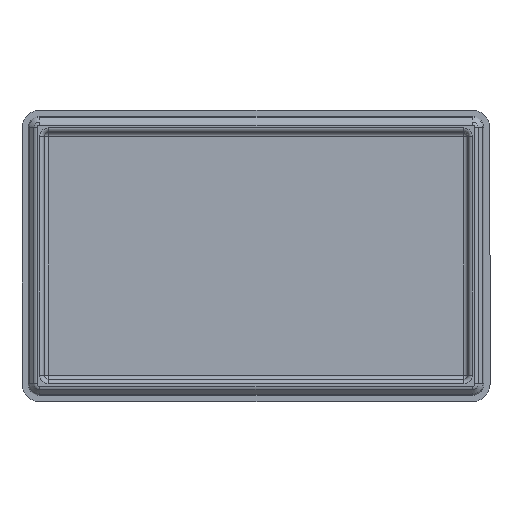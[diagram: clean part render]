
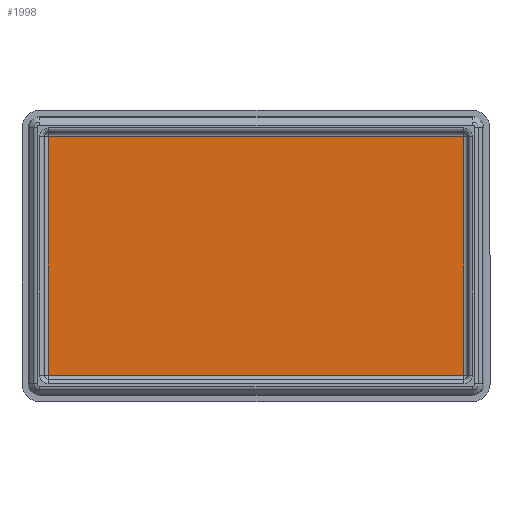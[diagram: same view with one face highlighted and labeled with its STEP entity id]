
A CAD part, top view. The second image highlights one B-rep face of the part: STEP entity #1998.
In plain terms, the highlighted planar face has unit normal (0, 0, 1).
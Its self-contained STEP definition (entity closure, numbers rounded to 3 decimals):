
#114 = ORIENTED_EDGE ( 'NONE', *, *, #293, .T. ) ;
#140 = ORIENTED_EDGE ( 'NONE', *, *, #1434, .T. ) ;
#154 = DIRECTION ( 'NONE',  ( -1., 0., 0. ) ) ;
#293 = EDGE_CURVE ( 'NONE', #1043, #2231, #1086, .T. ) ;
#545 = DIRECTION ( 'NONE',  ( 0., 0., 1. ) ) ;
#620 = VECTOR ( 'NONE', #842, 1000. ) ;
#712 = FACE_OUTER_BOUND ( 'NONE', #1256, .T. ) ;
#722 = ORIENTED_EDGE ( 'NONE', *, *, #1013, .T. ) ;
#842 = DIRECTION ( 'NONE',  ( 0., 1., 0. ) ) ;
#862 = VERTEX_POINT ( 'NONE', #1344 ) ;
#934 = VERTEX_POINT ( 'NONE', #2078 ) ;
#1013 = EDGE_CURVE ( 'NONE', #934, #862, #2259, .T. ) ;
#1017 = LINE ( 'NONE', #2255, #1780 ) ;
#1043 = VERTEX_POINT ( 'NONE', #1904 ) ;
#1063 = VECTOR ( 'NONE', #154, 1000. ) ;
#1083 = DIRECTION ( 'NONE',  ( 1., 0., 0. ) ) ;
#1086 = LINE ( 'NONE', #1763, #2118 ) ;
#1256 = EDGE_LOOP ( 'NONE', ( #140, #114, #1577, #722 ) ) ;
#1344 = CARTESIAN_POINT ( 'NONE',  ( -23.438, -31.177, 83.295 ) ) ;
#1368 = CARTESIAN_POINT ( 'NONE',  ( 23.562, -58.177, 83.295 ) ) ;
#1373 = EDGE_CURVE ( 'NONE', #2231, #934, #2089, .T. ) ;
#1407 = PLANE ( 'NONE',  #1965 ) ;
#1434 = EDGE_CURVE ( 'NONE', #862, #1043, #1017, .T. ) ;
#1577 = ORIENTED_EDGE ( 'NONE', *, *, #1373, .T. ) ;
#1763 = CARTESIAN_POINT ( 'NONE',  ( 0., -58.177, 83.295 ) ) ;
#1780 = VECTOR ( 'NONE', #1901, 1000. ) ;
#1888 = CARTESIAN_POINT ( 'NONE',  ( 23.562, 0., 83.295 ) ) ;
#1901 = DIRECTION ( 'NONE',  ( 0., -1., 0. ) ) ;
#1904 = CARTESIAN_POINT ( 'NONE',  ( -23.438, -58.177, 83.295 ) ) ;
#1940 = CARTESIAN_POINT ( 'NONE',  ( 0., -31.177, 83.295 ) ) ;
#1965 = AXIS2_PLACEMENT_3D ( 'NONE', #2105, #545, #1083 ) ;
#1998 = ADVANCED_FACE ( 'NONE', ( #712 ), #1407, .T. ) ;
#2078 = CARTESIAN_POINT ( 'NONE',  ( 23.562, -31.177, 83.295 ) ) ;
#2089 = LINE ( 'NONE', #1888, #620 ) ;
#2105 = CARTESIAN_POINT ( 'NONE',  ( 0., 0., 83.295 ) ) ;
#2118 = VECTOR ( 'NONE', #2122, 1000. ) ;
#2122 = DIRECTION ( 'NONE',  ( 1., 0., 0. ) ) ;
#2231 = VERTEX_POINT ( 'NONE', #1368 ) ;
#2255 = CARTESIAN_POINT ( 'NONE',  ( -23.438, 0., 83.295 ) ) ;
#2259 = LINE ( 'NONE', #1940, #1063 ) ;
